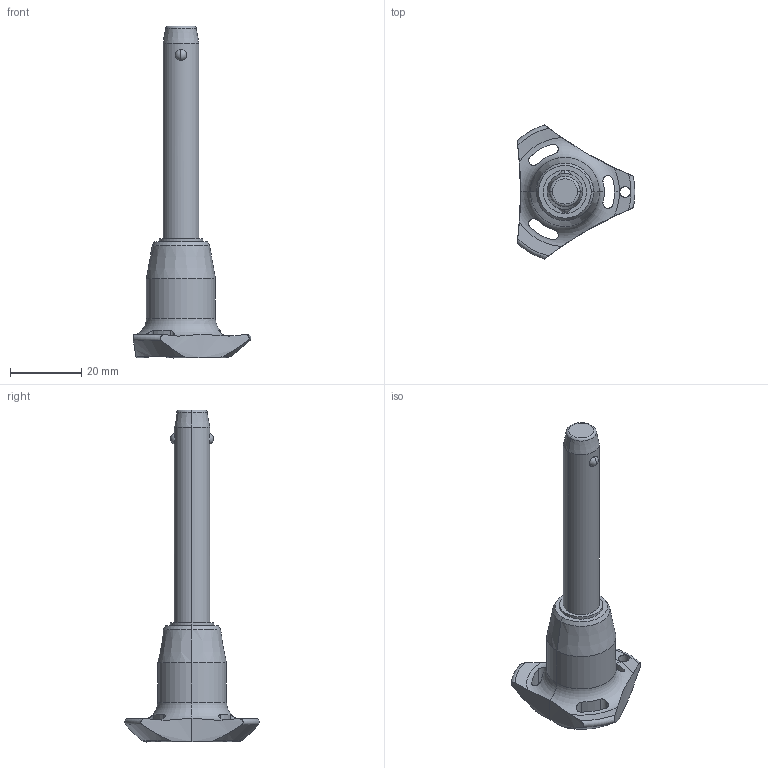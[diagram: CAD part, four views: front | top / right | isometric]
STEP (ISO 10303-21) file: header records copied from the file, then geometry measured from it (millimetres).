
FILE_DESCRIPTION (( 'STEP AP203' ), '1' );
FILE_NAME ('QR1704.M10-050-S.step', '2025-11-12T09:20:20', ( '' ), ( '' ), 'SwSTEP 2.0', 'SolidWorks 2019', '' );
FILE_SCHEMA (( 'CONFIG_CONTROL_DESIGN' ));
Length unit declared in the file: millimetre
Products named in the file (1): QR1704.M10-050-S
Bounding box: 33 x 37.51 x 92.9 mm (x, y, z)
Volume: 15006.9 mm3; surface area: 5735.2 mm2
Topology: 1 solids, 1 shells, 65 faces, 174 edges, 109 vertices
Faces by surface type: cylinder 30, cone 14, torus 11, sphere 6, plane 4
Entity records: 2758 total; most frequent: CARTESIAN_POINT 1085, ORIENTED_EDGE 348, DIRECTION 331, EDGE_CURVE 174, AXIS2_PLACEMENT_3D 147, VERTEX_POINT 109, CIRCLE 81, EDGE_LOOP 71
